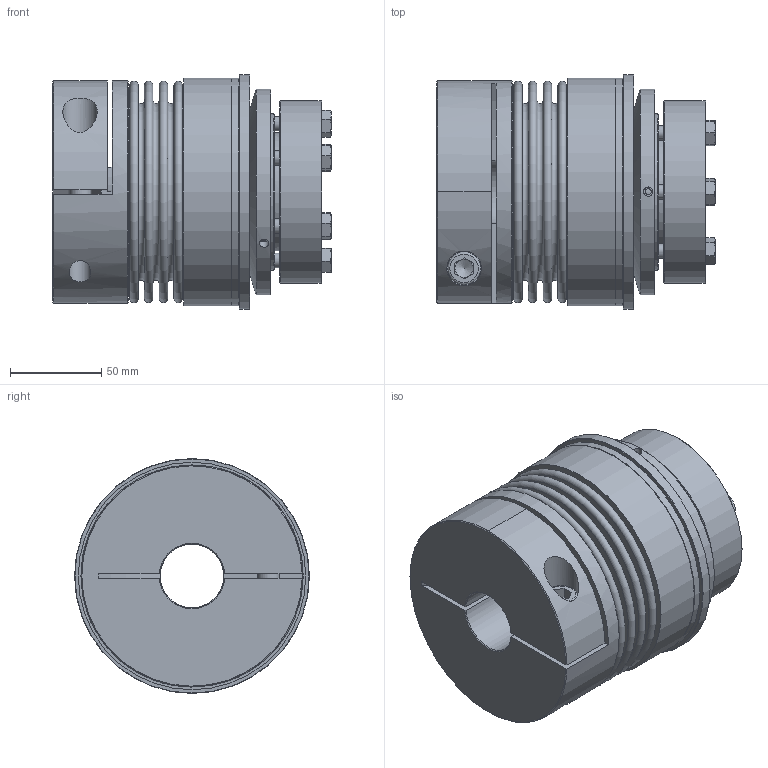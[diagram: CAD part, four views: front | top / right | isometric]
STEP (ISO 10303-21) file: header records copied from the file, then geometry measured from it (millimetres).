
FILE_DESCRIPTION( ( 'Unknown' ), '1' );
FILE_NAME( 'C:/Users/skarpstein/Desktop/Korrigierte 3D Modelle/KBK-B-KA/KBK-BKA-500-154.stp', 'Unknown', ( 'Unknown' ), ( 'Unknown' ), 'PSStep 16.0.42', 'Unknown', ' ' );
FILE_SCHEMA( ( 'AUTOMOTIVE_DESIGN { 1 0 10303 214 1 1 1 1 }' ) );
Length unit declared in the file: millimetre
Products named in the file (10): Assem1; Stellring 500_0; Druckring 500_0; Flansch BK500; KN500_Standard_4; Socket Head Cap Screw_DIN_DIN 912 M12 x 55 --- 55N_4; KBK L-A-500 Grundkörper; Druckring L-A-500; din_en_24017_m8x35; BK500_Standard_0
Assembly tree (14 placements, depth 2):
  Assem1
    Stellring 500_0
    Druckring 500_0
    Flansch BK500
    KN500_Standard_4
    Socket Head Cap Screw_DIN_DIN 912 M12 x 55 --- 55N_4
    KBK L-A-500 Grundkörper
    Druckring L-A-500
    din_en_24017_m8x35  x6
    BK500_Standard_0
Bounding box: 152.95 x 129 x 129 mm (x, y, z)
Volume: 1075143.1 mm3; surface area: 291204.4 mm2
Topology: 14 solids, 14 shells, 318 faces, 667 edges, 428 vertices
Faces by surface type: plane 151, cone 79, cylinder 64, torus 24
Full cylindrical faces by diameter (mm): 3.242 x3, 5.1 x3, 5.2 x3, 6.647 x6, 8 x6, 8.5 x6, 11.63 x6, 12 x2, 12.5 x1, 18 x1, 19 x1, 35 x2, 62 x1, 65 x2, 65.111 x1, 80 x1, 86 x2, 90 x1, 100 x1, 104.5 x1, 107.7 x2, 108.9 x2, 113 x1, 114 x1, 122 x1, 125 x2, 129 x1
Entity records: 7341 total; most frequent: CARTESIAN_POINT 1425, DIRECTION 911, ORIENTED_EDGE 622, AXIS2_PLACEMENT_3D 414, EDGE_LOOP 370, EDGE_CURVE 311, FACE_OUTER_BOUND 275, VERTEX_POINT 260
